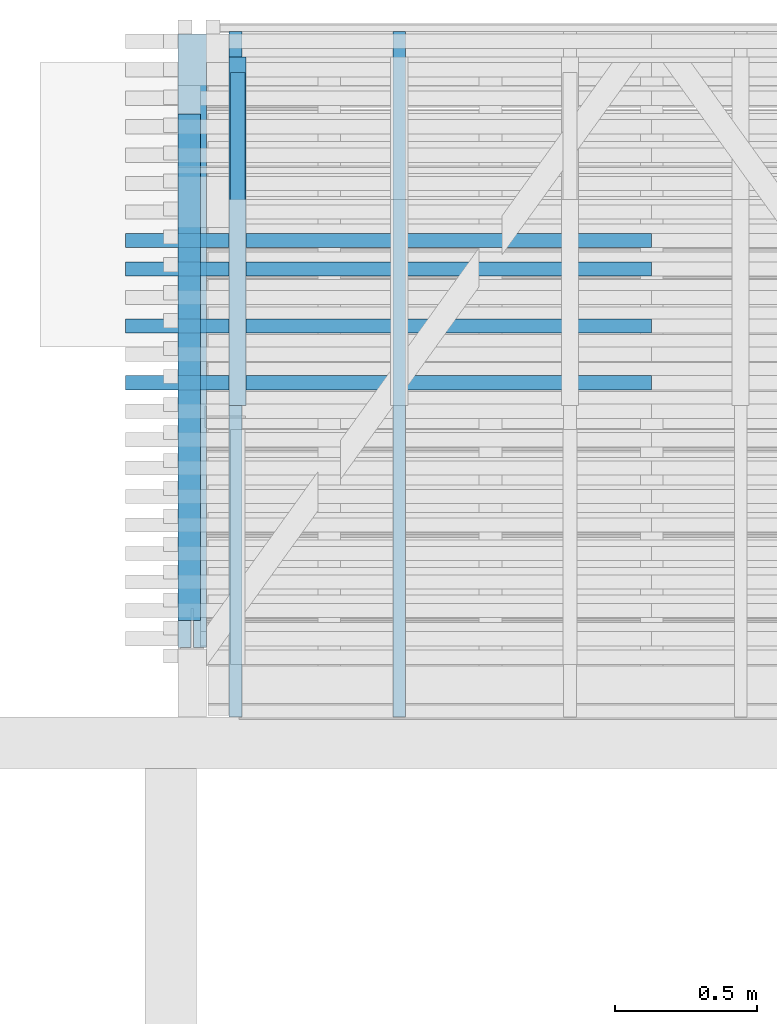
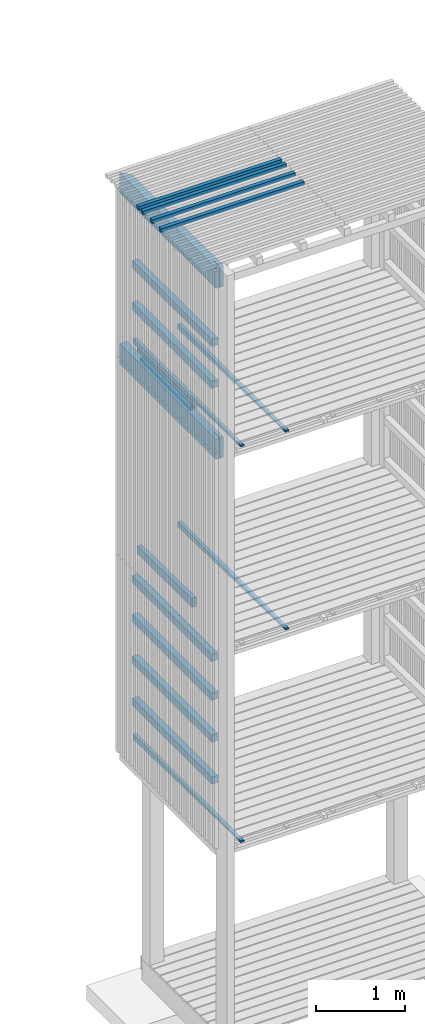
# One storey, part 143 of 182: 19 beams.
"""IFC2X3 building model written with IfcOpenShell, lengths in metres."""

from ifc_helpers import new_model, si_unit, frame, origin, place, context, project, spatial, faceted_brep, element, save


model = new_model("IFC2X3")

# Units and contexts
model_context = context("Model", 3, precision=1e-06, world=origin())
ifc_project = project(units=[si_unit("LENGTHUNIT", "METRE"), si_unit("PLANEANGLEUNIT", "RADIAN")], contexts=[model_context])

# Site, building, storey
site = spatial("IfcSite", under=ifc_project, CompositionType="ELEMENT")
building = spatial("IfcBuilding", under=site, CompositionType="ELEMENT")
storey = spatial("IfcBuildingStorey", under=building, Name="vs", CompositionType="ELEMENT", Elevation=-0.85)

# Beams
placement = place(None, origin())
beam_1_placement = place(placement, frame((33.26499999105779, 12.735077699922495, 7.91739999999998), z_axis=(0.0, 0.0, 1.0), x_axis=(0.0, -1.0, 0.0)))
element("IfcBeam", 1, at=beam_1_placement, inside=storey, Name="Calage", context=model_context, shape_type="Brep", body=[
    faceted_brep([(2e-15, 0.025000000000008, -0.025), (2e-15, -0.024999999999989, -0.025), (2e-15, -0.024999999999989, 0.024999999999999), (2e-15, 0.025000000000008, 0.024999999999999), (1.115000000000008, -0.024999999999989, 0.024999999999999), (1.115000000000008, -0.024999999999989, -0.025), (1.115000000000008, 0.025000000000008, -0.025), (1.115000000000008, 0.025000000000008, 0.024999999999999), (2e-15, -0.024999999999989, 0.024999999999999), (2e-15, -0.024999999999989, -0.025), (1.115000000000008, -0.024999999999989, -0.025), (1.115000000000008, -0.024999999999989, 0.024999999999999), (1.115000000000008, -0.024999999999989, -0.025), (2e-15, -0.024999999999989, -0.025), (2e-15, 0.025000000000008, -0.025), (1.115000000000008, 0.025000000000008, -0.025), (1.115000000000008, 0.025000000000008, -0.025), (2e-15, 0.025000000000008, -0.025), (2e-15, 0.025000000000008, 0.024999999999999), (1.115000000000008, 0.025000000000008, 0.024999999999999), (1.115000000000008, 0.025000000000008, 0.024999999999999), (2e-15, 0.025000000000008, 0.024999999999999), (2e-15, -0.024999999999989, 0.024999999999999), (1.115000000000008, -0.024999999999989, 0.024999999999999)], [[[0, 1, 2, 3]], [[4, 5, 6, 7]], [[8, 9, 10, 11]], [[12, 13, 14, 15]], [[16, 17, 18, 19]], [[20, 21, 22, 23]]]),
])
beam_2_placement = place(placement, frame((34.719999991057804, 11.845077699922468, 10.47999999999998), z_axis=(0.0, 0.0, 1.0), x_axis=(-1.0, -2e-15, 0.0)))
element("IfcBeam", 2, at=beam_2_placement, inside=storey, Name="Bardage", context=model_context, shape_type="Brep", body=[
    faceted_brep([(1.850000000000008, -0.025000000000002, -0.024999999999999), (1.850000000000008, -0.025000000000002, 0.025000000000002), (-1e-15, -0.024999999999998, 0.025000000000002), (-1e-15, -0.024999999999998, -0.024999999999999), (1.850000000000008, -0.025000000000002, 0.025000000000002), (1.850000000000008, -0.025000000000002, -0.024999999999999), (1.850000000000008, 0.024999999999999, -0.024999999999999), (1.850000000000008, 0.024999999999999, 0.025000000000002), (1.850000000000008, 0.024999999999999, -0.024999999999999), (1.850000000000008, -0.025000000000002, -0.024999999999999), (-1e-15, -0.024999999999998, -0.024999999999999), (-1e-15, 0.025000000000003, -0.024999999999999), (1.850000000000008, 0.024999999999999, 0.025000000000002), (1.850000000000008, 0.024999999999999, -0.024999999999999), (-1e-15, 0.025000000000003, -0.024999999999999), (-1e-15, 0.025000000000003, 0.025000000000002), (-1e-15, -0.024999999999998, 0.025000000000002), (1.850000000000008, -0.025000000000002, 0.025000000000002), (1.850000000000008, 0.024999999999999, 0.025000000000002), (-1e-15, 0.025000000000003, 0.025000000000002), (-1e-15, -0.024999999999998, -0.024999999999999), (-1e-15, -0.024999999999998, 0.025000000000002), (-1e-15, 0.025000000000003, 0.025000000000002), (-1e-15, 0.025000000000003, -0.024999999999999)], [[[0, 1, 2, 3]], [[4, 5, 6, 7]], [[8, 9, 10, 11]], [[12, 13, 14, 15]], [[16, 17, 18, 19]], [[20, 21, 22, 23]]]),
])
beam_3_placement = place(placement, frame((33.83299999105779, 10.470077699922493, 8.084400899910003), z_axis=(0.0, 0.0, 1.0), x_axis=(0.0, 1.0, 0.0)))
element("IfcBeam", 3, at=beam_3_placement, inside=storey, Name="Calage", context=model_context, shape_type="Brep", body=[
    faceted_brep([(2.41000000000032, -0.022500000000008, -0.035599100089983), (0.0, -0.022500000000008, 0.012600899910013), (0.0, 0.022499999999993, 0.012600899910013), (2.41000000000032, 0.022499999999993, -0.035599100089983), (0.0, 0.022499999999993, 0.035599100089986), (0.0, 0.022499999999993, 0.012600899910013), (0.0, -0.022500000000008, 0.012600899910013), (0.0, -0.022500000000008, 0.035599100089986), (2.41000000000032, 0.022499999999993, -0.035599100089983), (0.0, 0.022499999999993, 0.012600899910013), (0.0, 0.022499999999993, 0.035599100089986), (2.41000000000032, 0.022499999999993, 0.035599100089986), (2.41000000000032, -0.022500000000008, 0.035599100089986), (0.0, -0.022500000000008, 0.035599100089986), (0.0, -0.022500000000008, 0.012600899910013), (2.41000000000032, -0.022500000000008, -0.035599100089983), (2.41000000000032, 0.022499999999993, 0.035599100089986), (0.0, 0.022499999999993, 0.035599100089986), (0.0, -0.022500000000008, 0.035599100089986), (2.41000000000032, -0.022500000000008, 0.035599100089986), (2.41000000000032, 0.022499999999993, -0.035599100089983), (2.41000000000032, 0.022499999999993, 0.035599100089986), (2.41000000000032, -0.022500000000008, 0.035599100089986), (2.41000000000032, -0.022500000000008, -0.035599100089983)], [[[0, 1, 2, 3]], [[4, 5, 6, 7]], [[8, 9, 10, 11]], [[12, 13, 14, 15]], [[16, 17, 18, 19]], [[20, 21, 22, 23]]]),
])
beam_4_placement = place(placement, frame((34.719999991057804, 12.045077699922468, 10.47999999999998), z_axis=(0.0, 0.0, 1.0), x_axis=(-1.0, -2e-15, 0.0)))
element("IfcBeam", 4, at=beam_4_placement, inside=storey, Name="Bardage", context=model_context, shape_type="Brep", body=[
    faceted_brep([(1.850000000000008, -0.025000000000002, -0.024999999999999), (1.850000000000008, -0.025000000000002, 0.025000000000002), (-1e-15, -0.025000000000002, 0.025000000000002), (-1e-15, -0.025000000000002, -0.024999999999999), (1.850000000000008, -0.025000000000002, 0.025000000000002), (1.850000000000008, -0.025000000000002, -0.024999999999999), (1.850000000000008, 0.024999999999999, -0.024999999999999), (1.850000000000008, 0.024999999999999, 0.025000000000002), (1.850000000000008, 0.024999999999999, -0.024999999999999), (1.850000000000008, -0.025000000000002, -0.024999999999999), (-1e-15, -0.025000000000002, -0.024999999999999), (-1e-15, 0.025000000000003, -0.024999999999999), (1.850000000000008, 0.024999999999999, 0.025000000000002), (1.850000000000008, 0.024999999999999, -0.024999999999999), (-1e-15, 0.025000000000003, -0.024999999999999), (-1e-15, 0.025000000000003, 0.025000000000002), (-1e-15, -0.025000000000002, 0.025000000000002), (1.850000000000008, -0.025000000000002, 0.025000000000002), (1.850000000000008, 0.024999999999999, 0.025000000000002), (-1e-15, 0.025000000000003, 0.025000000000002), (-1e-15, -0.025000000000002, -0.024999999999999), (-1e-15, -0.025000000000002, 0.025000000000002), (-1e-15, 0.025000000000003, 0.025000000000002), (-1e-15, 0.025000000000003, -0.024999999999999)], [[[0, 1, 2, 3]], [[4, 5, 6, 7]], [[8, 9, 10, 11]], [[12, 13, 14, 15]], [[16, 17, 18, 19]], [[20, 21, 22, 23]]]),
])
beam_5_placement = place(placement, frame((33.26499999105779, 11.565077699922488, 8.00424999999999), z_axis=(0.0, 0.0, 1.0), x_axis=(0.0, 1.0, 0.0)))
element("IfcBeam", 5, at=beam_5_placement, inside=storey, Name="Solive", context=model_context, shape_type="Brep", body=[
    faceted_brep([(0.0, -0.030000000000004, -0.061849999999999), (1.225000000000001, -0.030000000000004, -0.061849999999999), (1.225000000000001, -0.030000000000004, 0.037349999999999), (0.0, -0.030000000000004, 0.061849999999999), (0.0, 0.029999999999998, -0.061849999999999), (1.225000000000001, 0.029999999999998, -0.061849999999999), (1.225000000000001, -0.030000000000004, -0.061849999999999), (0.0, -0.030000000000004, -0.061849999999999), (0.0, 0.029999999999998, 0.061850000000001), (0.0, 0.029999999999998, -0.061849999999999), (0.0, -0.030000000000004, -0.061849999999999), (0.0, -0.030000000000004, 0.061849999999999), (1.225000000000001, 0.029999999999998, -0.061849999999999), (0.0, 0.029999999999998, -0.061849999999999), (0.0, 0.029999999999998, 0.061850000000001), (1.225000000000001, 0.029999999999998, 0.037349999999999), (1.225000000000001, -0.030000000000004, 0.037349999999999), (1.225000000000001, -0.030000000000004, -0.061849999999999), (1.225000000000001, 0.029999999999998, -0.061849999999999), (1.225000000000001, 0.029999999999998, 0.037349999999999), (0.0, -0.030000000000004, 0.061849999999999), (1.225000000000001, -0.030000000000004, 0.037349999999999), (1.225000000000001, 0.029999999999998, 0.037349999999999), (0.0, 0.029999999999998, 0.061850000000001)], [[[0, 1, 2, 3]], [[4, 5, 6, 7]], [[8, 9, 10, 11]], [[12, 13, 14, 15]], [[16, 17, 18, 19]], [[20, 21, 22, 23]]]),
])
beam_6_placement = place(placement, frame((34.719999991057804, 11.645077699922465, 10.47999999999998), z_axis=(0.0, 0.0, 1.0), x_axis=(-1.0, 0.0, 0.0)))
element("IfcBeam", 6, at=beam_6_placement, inside=storey, Name="Bardage", context=model_context, shape_type="Brep", body=[
    faceted_brep([(1.850000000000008, -0.024999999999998, -0.024999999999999), (1.850000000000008, -0.024999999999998, 0.025000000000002), (-1e-15, -0.025000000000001, 0.025000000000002), (-1e-15, -0.025000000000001, -0.024999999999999), (1.850000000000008, -0.024999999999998, 0.025000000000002), (1.850000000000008, -0.024999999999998, -0.024999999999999), (1.850000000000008, 0.024999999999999, -0.024999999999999), (1.850000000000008, 0.024999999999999, 0.025000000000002), (1.850000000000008, 0.024999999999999, -0.024999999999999), (1.850000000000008, -0.024999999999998, -0.024999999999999), (-1e-15, -0.025000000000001, -0.024999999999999), (-1e-15, 0.024999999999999, -0.024999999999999), (1.850000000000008, 0.024999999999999, 0.025000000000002), (1.850000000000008, 0.024999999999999, -0.024999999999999), (-1e-15, 0.024999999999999, -0.024999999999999), (-1e-15, 0.024999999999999, 0.025000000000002), (-1e-15, -0.025000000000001, 0.025000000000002), (1.850000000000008, -0.024999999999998, 0.025000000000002), (1.850000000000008, 0.024999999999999, 0.025000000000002), (-1e-15, 0.024999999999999, 0.025000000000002), (-1e-15, -0.025000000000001, -0.024999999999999), (-1e-15, -0.025000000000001, 0.025000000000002), (-1e-15, 0.024999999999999, 0.025000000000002), (-1e-15, 0.024999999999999, -0.024999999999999)], [[[0, 1, 2, 3]], [[4, 5, 6, 7]], [[8, 9, 10, 11]], [[12, 13, 14, 15]], [[16, 17, 18, 19]], [[20, 21, 22, 23]]]),
])
beam_7_placement = place(placement, frame((33.2574999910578, 10.470077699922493, 8.084400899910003), z_axis=(0.0, 0.0, 1.0), x_axis=(0.0, 1.0, 0.0)))
element("IfcBeam", 7, at=beam_7_placement, inside=storey, Name="Calage", context=model_context, shape_type="Brep", body=[
    faceted_brep([(2.41000000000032, -0.022499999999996, -0.035599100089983), (0.0, -0.022499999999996, 0.012600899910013), (0.0, 0.022500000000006, 0.012600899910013), (2.41000000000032, 0.022500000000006, -0.035599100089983), (0.0, 0.022500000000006, 0.035599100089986), (0.0, 0.022500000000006, 0.012600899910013), (0.0, -0.022499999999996, 0.012600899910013), (0.0, -0.022499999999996, 0.035599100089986), (2.41000000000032, 0.022500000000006, -0.035599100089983), (0.0, 0.022500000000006, 0.012600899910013), (0.0, 0.022500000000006, 0.035599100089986), (2.41000000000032, 0.022500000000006, 0.035599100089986), (2.41000000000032, -0.022499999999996, 0.035599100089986), (0.0, -0.022499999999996, 0.035599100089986), (0.0, -0.022499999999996, 0.012600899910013), (2.41000000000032, -0.022499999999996, -0.035599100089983), (2.41000000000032, 0.022500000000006, 0.035599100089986), (0.0, 0.022500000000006, 0.035599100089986), (0.0, -0.022499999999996, 0.035599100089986), (2.41000000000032, -0.022499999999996, 0.035599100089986), (2.41000000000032, 0.022500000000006, -0.035599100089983), (2.41000000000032, 0.022500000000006, 0.035599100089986), (2.41000000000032, -0.022499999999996, 0.035599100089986), (2.41000000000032, -0.022499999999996, -0.035599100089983)], [[[0, 1, 2, 3]], [[4, 5, 6, 7]], [[8, 9, 10, 11]], [[12, 13, 14, 15]], [[16, 17, 18, 19]], [[20, 21, 22, 23]]]),
])
beam_8_placement = place(placement, frame((33.09499999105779, 10.8100776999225, 4.543749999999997), z_axis=(0.0, 0.0, 1.0), x_axis=(0.0, 1.0, 0.0)))
element("IfcBeam", 8, at=beam_8_placement, inside=storey, Name="Support bardage", context=model_context, shape_type="Brep", body=[
    faceted_brep([(1.779999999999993, 0.039999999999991, -0.050000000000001), (1.779999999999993, 0.039999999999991, 0.050000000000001), (1.779999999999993, -0.040000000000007, 0.050000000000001), (1.779999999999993, -0.040000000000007, -0.050000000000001), (1.779999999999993, -0.040000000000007, 0.050000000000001), (1.779999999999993, 0.039999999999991, 0.050000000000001), (-4e-15, 0.039999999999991, 0.050000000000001), (-4e-15, -0.040000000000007, 0.050000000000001), (-4e-15, 0.039999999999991, 0.050000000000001), (1.779999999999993, 0.039999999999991, 0.050000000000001), (1.779999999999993, 0.039999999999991, -0.050000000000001), (-4e-15, 0.039999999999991, -0.050000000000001), (1.779999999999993, -0.040000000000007, -0.050000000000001), (1.779999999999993, -0.040000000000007, 0.050000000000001), (-4e-15, -0.040000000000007, 0.050000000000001), (-4e-15, -0.040000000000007, -0.050000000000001), (-4e-15, 0.039999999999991, -0.050000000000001), (1.779999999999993, 0.039999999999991, -0.050000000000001), (1.779999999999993, -0.040000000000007, -0.050000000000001), (-4e-15, -0.040000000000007, -0.050000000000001), (-4e-15, 0.039999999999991, 0.050000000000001), (-4e-15, 0.039999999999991, -0.050000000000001), (-4e-15, -0.040000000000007, -0.050000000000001), (-4e-15, -0.040000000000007, 0.050000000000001)], [[[0, 1, 2, 3]], [[4, 5, 6, 7]], [[8, 9, 10, 11]], [[12, 13, 14, 15]], [[16, 17, 18, 19]], [[20, 21, 22, 23]]]),
])
beam_9_placement = place(placement, frame((34.719999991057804, 12.145077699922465, 10.47999999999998), z_axis=(0.0, 0.0, 1.0), x_axis=(-1.0, 0.0, 0.0)))
element("IfcBeam", 9, at=beam_9_placement, inside=storey, Name="Bardage", context=model_context, shape_type="Brep", body=[
    faceted_brep([(1.850000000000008, -0.024999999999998, -0.024999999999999), (1.850000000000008, -0.024999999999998, 0.025000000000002), (-1e-15, -0.025000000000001, 0.025000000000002), (-1e-15, -0.025000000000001, -0.024999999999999), (1.850000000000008, -0.024999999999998, 0.025000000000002), (1.850000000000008, -0.024999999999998, -0.024999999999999), (1.850000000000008, 0.024999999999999, -0.024999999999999), (1.850000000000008, 0.024999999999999, 0.025000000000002), (1.850000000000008, 0.024999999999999, -0.024999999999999), (1.850000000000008, -0.024999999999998, -0.024999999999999), (-1e-15, -0.025000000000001, -0.024999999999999), (-1e-15, 0.024999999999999, -0.024999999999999), (1.850000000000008, 0.024999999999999, 0.025000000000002), (1.850000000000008, 0.024999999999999, -0.024999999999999), (-1e-15, 0.024999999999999, -0.024999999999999), (-1e-15, 0.024999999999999, 0.025000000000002), (-1e-15, -0.025000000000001, 0.025000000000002), (1.850000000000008, -0.024999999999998, 0.025000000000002), (1.850000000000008, 0.024999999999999, 0.025000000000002), (-1e-15, 0.024999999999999, 0.025000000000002), (-1e-15, -0.025000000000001, -0.024999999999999), (-1e-15, -0.025000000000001, 0.025000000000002), (-1e-15, 0.024999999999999, 0.025000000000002), (-1e-15, 0.024999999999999, -0.024999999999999)], [[[0, 1, 2, 3]], [[4, 5, 6, 7]], [[8, 9, 10, 11]], [[12, 13, 14, 15]], [[16, 17, 18, 19]], [[20, 21, 22, 23]]]),
])
beam_10_placement = place(placement, frame((33.09499999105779, 10.8100776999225, 8.80124999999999), z_axis=(0.0, 0.0, 1.0), x_axis=(0.0, 1.0, 0.0)))
element("IfcBeam", 10, at=beam_10_placement, inside=storey, Name="Support bardage", context=model_context, shape_type="Brep", body=[
    faceted_brep([(1.779999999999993, 0.039999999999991, -0.050000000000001), (1.779999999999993, 0.039999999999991, 0.050000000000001), (1.779999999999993, -0.040000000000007, 0.050000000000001), (1.779999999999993, -0.040000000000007, -0.050000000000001), (1.779999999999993, -0.040000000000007, 0.050000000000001), (1.779999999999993, 0.039999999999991, 0.050000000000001), (-4e-15, 0.039999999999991, 0.050000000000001), (-4e-15, -0.040000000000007, 0.050000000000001), (-4e-15, 0.039999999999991, 0.050000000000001), (1.779999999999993, 0.039999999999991, 0.050000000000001), (1.779999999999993, 0.039999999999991, -0.050000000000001), (-4e-15, 0.039999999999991, -0.050000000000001), (1.779999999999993, -0.040000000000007, -0.050000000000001), (1.779999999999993, -0.040000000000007, 0.050000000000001), (-4e-15, -0.040000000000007, 0.050000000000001), (-4e-15, -0.040000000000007, -0.050000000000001), (-4e-15, 0.039999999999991, -0.050000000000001), (1.779999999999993, 0.039999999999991, -0.050000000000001), (1.779999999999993, -0.040000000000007, -0.050000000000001), (-4e-15, -0.040000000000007, -0.050000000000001), (-4e-15, 0.039999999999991, 0.050000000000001), (-4e-15, 0.039999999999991, -0.050000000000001), (-4e-15, -0.040000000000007, -0.050000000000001), (-4e-15, -0.040000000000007, 0.050000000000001)], [[[0, 1, 2, 3]], [[4, 5, 6, 7]], [[8, 9, 10, 11]], [[12, 13, 14, 15]], [[16, 17, 18, 19]], [[20, 21, 22, 23]]]),
])
beam_11_placement = place(placement, frame((33.2574999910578, 10.470077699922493, 2.684400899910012), z_axis=(0.0, 0.0, 1.0), x_axis=(0.0, 1.0, 0.0)))
element("IfcBeam", 11, at=beam_11_placement, inside=storey, Name="Calage", context=model_context, shape_type="Brep", body=[
    faceted_brep([(2.41000000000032, -0.022499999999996, -0.035599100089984), (0.0, -0.022499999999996, 0.012600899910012), (0.0, 0.022500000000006, 0.012600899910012), (2.41000000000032, 0.022500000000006, -0.035599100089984), (0.0, 0.022500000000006, 0.035599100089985), (0.0, 0.022500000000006, 0.012600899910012), (0.0, -0.022499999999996, 0.012600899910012), (0.0, -0.022499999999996, 0.035599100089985), (2.41000000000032, 0.022500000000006, -0.035599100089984), (0.0, 0.022500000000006, 0.012600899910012), (0.0, 0.022500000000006, 0.035599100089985), (2.41000000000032, 0.022500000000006, 0.035599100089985), (2.41000000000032, -0.022499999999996, 0.035599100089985), (0.0, -0.022499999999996, 0.035599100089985), (0.0, -0.022499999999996, 0.012600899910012), (2.41000000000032, -0.022499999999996, -0.035599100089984), (2.41000000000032, 0.022500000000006, 0.035599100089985), (0.0, 0.022500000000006, 0.035599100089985), (0.0, -0.022499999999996, 0.035599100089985), (2.41000000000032, -0.022499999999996, 0.035599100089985), (2.41000000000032, 0.022500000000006, -0.035599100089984), (2.41000000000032, 0.022500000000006, 0.035599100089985), (2.41000000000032, -0.022499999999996, 0.035599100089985), (2.41000000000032, -0.022499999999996, -0.035599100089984)], [[[0, 1, 2, 3]], [[4, 5, 6, 7]], [[8, 9, 10, 11]], [[12, 13, 14, 15]], [[16, 17, 18, 19]], [[20, 21, 22, 23]]]),
])
beam_12_placement = place(placement, frame((33.83299999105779, 10.470077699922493, 5.384400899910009), z_axis=(0.0, 0.0, 1.0), x_axis=(0.0, 1.0, 0.0)))
element("IfcBeam", 12, at=beam_12_placement, inside=storey, Name="Calage", context=model_context, shape_type="Brep", body=[
    faceted_brep([(2.41000000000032, -0.022500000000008, -0.035599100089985), (0.0, -0.022500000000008, 0.012600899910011), (0.0, 0.022499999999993, 0.012600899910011), (2.41000000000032, 0.022499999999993, -0.035599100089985), (0.0, 0.022499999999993, 0.035599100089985), (0.0, 0.022499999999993, 0.012600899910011), (0.0, -0.022500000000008, 0.012600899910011), (0.0, -0.022500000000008, 0.035599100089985), (2.41000000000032, 0.022499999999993, -0.035599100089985), (0.0, 0.022499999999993, 0.012600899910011), (0.0, 0.022499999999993, 0.035599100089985), (2.41000000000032, 0.022499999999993, 0.035599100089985), (2.41000000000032, -0.022500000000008, 0.035599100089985), (0.0, -0.022500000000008, 0.035599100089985), (0.0, -0.022500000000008, 0.012600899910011), (2.41000000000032, -0.022500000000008, -0.035599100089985), (2.41000000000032, 0.022499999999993, 0.035599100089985), (0.0, 0.022499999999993, 0.035599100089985), (0.0, -0.022500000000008, 0.035599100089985), (2.41000000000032, -0.022500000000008, 0.035599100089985), (2.41000000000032, 0.022499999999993, -0.035599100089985), (2.41000000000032, 0.022499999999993, 0.035599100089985), (2.41000000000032, -0.022500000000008, 0.035599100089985), (2.41000000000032, -0.022500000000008, -0.035599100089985)], [[[0, 1, 2, 3]], [[4, 5, 6, 7]], [[8, 9, 10, 11]], [[12, 13, 14, 15]], [[16, 17, 18, 19]], [[20, 21, 22, 23]]]),
])
beam_13_placement = place(placement, frame((33.26499999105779, 11.565077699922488, 5.304249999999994), z_axis=(0.0, 0.0, 1.0), x_axis=(0.0, 1.0, 0.0)))
element("IfcBeam", 13, at=beam_13_placement, inside=storey, Name="Solive", context=model_context, shape_type="Brep", body=[
    faceted_brep([(0.0, -0.030000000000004, -0.061849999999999), (1.225000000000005, -0.030000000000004, -0.061849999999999), (1.225000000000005, -0.030000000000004, 0.03735), (0.0, -0.030000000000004, 0.06185), (0.0, 0.029999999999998, -0.061849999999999), (1.225000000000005, 0.029999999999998, -0.061849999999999), (1.225000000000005, -0.030000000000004, -0.061849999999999), (0.0, -0.030000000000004, -0.061849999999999), (0.0, 0.029999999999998, 0.061850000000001), (0.0, 0.029999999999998, -0.061849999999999), (0.0, -0.030000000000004, -0.061849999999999), (0.0, -0.030000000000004, 0.06185), (1.225000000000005, 0.029999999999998, -0.061849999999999), (0.0, 0.029999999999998, -0.061849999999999), (0.0, 0.029999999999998, 0.061850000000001), (1.225000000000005, 0.029999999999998, 0.03735), (1.225000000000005, -0.030000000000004, 0.03735), (1.225000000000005, -0.030000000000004, -0.061849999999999), (1.225000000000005, 0.029999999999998, -0.061849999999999), (1.225000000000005, 0.029999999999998, 0.03735), (0.0, -0.030000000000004, 0.06185), (1.225000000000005, -0.030000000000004, 0.03735), (1.225000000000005, 0.029999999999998, 0.03735), (0.0, 0.029999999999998, 0.061850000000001)], [[[0, 1, 2, 3]], [[4, 5, 6, 7]], [[8, 9, 10, 11]], [[12, 13, 14, 15]], [[16, 17, 18, 19]], [[20, 21, 22, 23]]]),
])
beam_14_placement = place(placement, frame((33.104999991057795, 10.715077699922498, 10.314999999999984), z_axis=(0.0, 0.0, 1.0), x_axis=(0.0, 1.0, 0.0)))
element("IfcBeam", 14, at=beam_14_placement, inside=storey, Name="Sommier", context=model_context, shape_type="Brep", body=[
    faceted_brep([(0.0, -0.004000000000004, 0.140000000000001), (0.0, -0.049999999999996, 0.140000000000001), (2.054999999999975, -0.049999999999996, 0.140000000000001), (2.154999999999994, 0.049999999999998, 0.140000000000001), (0.0, 0.049999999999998, 0.140000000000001), (0.0, 0.003999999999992, 0.140000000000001), (0.137, 0.003999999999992, 0.140000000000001), (0.137, -0.004000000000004, 0.140000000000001), (2.054999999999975, -0.049999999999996, -0.140000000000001), (2.054999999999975, -0.049999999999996, 0.140000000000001), (0.0, -0.049999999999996, 0.140000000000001), (0.0, -0.049999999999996, -0.140000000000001), (2.054999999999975, -0.049999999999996, 0.140000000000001), (2.054999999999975, -0.049999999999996, -0.140000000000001), (2.154999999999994, 0.049999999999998, -0.140000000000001), (2.154999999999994, 0.049999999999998, 0.140000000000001), (0.0, 0.049999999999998, 0.140000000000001), (2.154999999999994, 0.049999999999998, 0.140000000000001), (2.154999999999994, 0.049999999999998, -0.140000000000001), (0.0, 0.049999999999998, -0.140000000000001), (0.0, 0.003999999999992, -0.140000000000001), (0.0, 0.003999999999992, 0.140000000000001), (0.0, 0.049999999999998, 0.140000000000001), (0.0, 0.049999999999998, -0.140000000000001), (0.0, -0.049999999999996, 0.140000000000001), (0.0, -0.004000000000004, 0.140000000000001), (0.0, -0.004000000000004, -0.140000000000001), (0.0, -0.049999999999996, -0.140000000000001), (0.0, 0.049999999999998, -0.140000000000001), (2.154999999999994, 0.049999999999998, -0.140000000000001), (2.054999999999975, -0.049999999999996, -0.140000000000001), (0.0, -0.049999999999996, -0.140000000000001), (0.0, -0.004000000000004, -0.140000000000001), (0.137, -0.004000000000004, -0.140000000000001), (0.137, 0.003999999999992, -0.140000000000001), (0.0, 0.003999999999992, -0.140000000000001), (0.137, 0.003999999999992, -0.140000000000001), (0.137, -0.004000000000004, -0.140000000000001), (0.137, -0.004000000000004, 0.140000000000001), (0.137, 0.003999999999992, 0.140000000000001), (0.0, -0.004000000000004, 0.140000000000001), (0.137, -0.004000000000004, 0.140000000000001), (0.137, -0.004000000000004, -0.140000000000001), (0.0, -0.004000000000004, -0.140000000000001), (0.137, 0.003999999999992, 0.140000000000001), (0.0, 0.003999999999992, 0.140000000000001), (0.0, 0.003999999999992, -0.140000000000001), (0.137, 0.003999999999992, -0.140000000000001)], [[[0, 1, 2, 3, 4, 5, 6, 7]], [[8, 9, 10, 11]], [[12, 13, 14, 15]], [[16, 17, 18, 19]], [[20, 21, 22, 23]], [[24, 25, 26, 27]], [[28, 29, 30, 31, 32, 33, 34, 35]], [[36, 37, 38, 39]], [[40, 41, 42, 43]], [[44, 45, 46, 47]]]),
])
beam_15_placement = place(placement, frame((33.09499999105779, 10.8100776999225, 3.972499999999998), z_axis=(0.0, 0.0, 1.0), x_axis=(0.0, 1.0, 0.0)))
element("IfcBeam", 15, at=beam_15_placement, inside=storey, Name="Support bardage", context=model_context, shape_type="Brep", body=[
    faceted_brep([(1.779999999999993, 0.039999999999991, -0.050000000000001), (1.779999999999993, 0.039999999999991, 0.050000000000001), (1.779999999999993, -0.040000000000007, 0.050000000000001), (1.779999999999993, -0.040000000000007, -0.050000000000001), (1.779999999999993, -0.040000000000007, 0.050000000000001), (1.779999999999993, 0.039999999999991, 0.050000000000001), (-4e-15, 0.039999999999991, 0.050000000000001), (-4e-15, -0.040000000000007, 0.050000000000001), (-4e-15, 0.039999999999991, 0.050000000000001), (1.779999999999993, 0.039999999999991, 0.050000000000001), (1.779999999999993, 0.039999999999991, -0.050000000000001), (-4e-15, 0.039999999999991, -0.050000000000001), (1.779999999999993, -0.040000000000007, -0.050000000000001), (1.779999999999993, -0.040000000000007, 0.050000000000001), (-4e-15, -0.040000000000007, 0.050000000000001), (-4e-15, -0.040000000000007, -0.050000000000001), (-4e-15, 0.039999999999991, -0.050000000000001), (1.779999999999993, 0.039999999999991, -0.050000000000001), (1.779999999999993, -0.040000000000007, -0.050000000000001), (-4e-15, -0.040000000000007, -0.050000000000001), (-4e-15, 0.039999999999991, 0.050000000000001), (-4e-15, 0.039999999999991, -0.050000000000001), (-4e-15, -0.040000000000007, -0.050000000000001), (-4e-15, -0.040000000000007, 0.050000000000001)], [[[0, 1, 2, 3]], [[4, 5, 6, 7]], [[8, 9, 10, 11]], [[12, 13, 14, 15]], [[16, 17, 18, 19]], [[20, 21, 22, 23]]]),
])
beam_16_placement = place(placement, frame((33.104999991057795, 10.715077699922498, 7.979999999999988), z_axis=(0.0, 0.0, 1.0), x_axis=(0.0, 1.0, 0.0)))
element("IfcBeam", 16, at=beam_16_placement, inside=storey, Name="Sommier", context=model_context, shape_type="Brep", body=[
    faceted_brep([(2.154999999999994, 0.049999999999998, 0.140000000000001), (2.154999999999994, -0.049999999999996, 0.140000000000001), (2.154999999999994, -0.049999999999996, -0.14), (2.154999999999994, 0.049999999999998, -0.14), (0.771999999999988, -0.049999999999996, -0.14), (0.771999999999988, -0.049999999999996, 0.035000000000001), (0.847999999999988, -0.049999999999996, 0.035000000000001), (0.847999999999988, -0.049999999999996, -0.14), (2.154999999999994, -0.049999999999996, -0.14), (2.154999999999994, -0.049999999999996, 0.140000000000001), (0.0, -0.049999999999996, 0.140000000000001), (0.0, -0.049999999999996, -0.14), (0.771999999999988, -0.045000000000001, -0.14), (0.847999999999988, -0.045000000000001, -0.14), (0.847999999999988, -0.045000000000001, 0.035000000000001), (0.771999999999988, -0.045000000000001, 0.035000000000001), (0.771999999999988, -0.045000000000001, 0.035000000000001), (0.847999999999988, -0.045000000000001, 0.035000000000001), (0.847999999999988, -0.049999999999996, 0.035000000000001), (0.771999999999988, -0.049999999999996, 0.035000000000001), (0.847999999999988, -0.045000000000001, 0.035000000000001), (0.847999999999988, -0.045000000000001, -0.14), (0.847999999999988, -0.049999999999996, -0.14), (0.847999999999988, -0.049999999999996, 0.035000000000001), (0.771999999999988, -0.049999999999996, 0.035000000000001), (0.771999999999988, -0.049999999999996, -0.14), (0.771999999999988, -0.045000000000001, -0.14), (0.771999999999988, -0.045000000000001, 0.035000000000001), (2.154999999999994, 0.049999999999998, 0.140000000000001), (2.154999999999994, 0.049999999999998, -0.14), (0.0, 0.049999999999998, -0.14), (0.0, 0.049999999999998, 0.140000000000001), (0.0, -0.00399999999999, 0.140000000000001), (0.0, -0.049999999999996, 0.140000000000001), (2.154999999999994, -0.049999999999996, 0.140000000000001), (2.154999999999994, 0.049999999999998, 0.140000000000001), (0.0, 0.049999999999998, 0.140000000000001), (0.0, 0.004000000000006, 0.140000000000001), (0.137, 0.004000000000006, 0.140000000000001), (0.137, -0.00399999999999, 0.140000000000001), (0.0, 0.004000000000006, -0.14), (0.0, 0.004000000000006, 0.140000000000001), (0.0, 0.049999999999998, 0.140000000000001), (0.0, 0.049999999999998, -0.14), (0.0, -0.049999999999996, 0.140000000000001), (0.0, -0.00399999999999, 0.140000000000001), (0.0, -0.00399999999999, -0.14), (0.0, -0.049999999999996, -0.14), (0.0, 0.049999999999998, -0.14), (2.154999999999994, 0.049999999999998, -0.14), (2.154999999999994, -0.049999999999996, -0.14), (0.847999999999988, -0.049999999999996, -0.14), (0.847999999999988, -0.045000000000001, -0.14), (0.771999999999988, -0.045000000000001, -0.14), (0.771999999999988, -0.049999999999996, -0.14), (0.0, -0.049999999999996, -0.14), (0.0, -0.00399999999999, -0.14), (0.137, -0.00399999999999, -0.14), (0.137, 0.004000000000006, -0.14), (0.0, 0.004000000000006, -0.14), (0.137, 0.004000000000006, -0.14), (0.137, -0.00399999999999, -0.14), (0.137, -0.00399999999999, 0.140000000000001), (0.137, 0.004000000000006, 0.140000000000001), (0.0, -0.00399999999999, 0.140000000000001), (0.137, -0.00399999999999, 0.140000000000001), (0.137, -0.00399999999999, -0.14), (0.0, -0.00399999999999, -0.14), (0.137, 0.004000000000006, 0.140000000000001), (0.0, 0.004000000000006, 0.140000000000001), (0.0, 0.004000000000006, -0.14), (0.137, 0.004000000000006, -0.14)], [[[0, 1, 2, 3]], [[4, 5, 6, 7, 8, 9, 10, 11]], [[12, 13, 14, 15]], [[16, 17, 18, 19]], [[20, 21, 22, 23]], [[24, 25, 26, 27]], [[28, 29, 30, 31]], [[32, 33, 34, 35, 36, 37, 38, 39]], [[40, 41, 42, 43]], [[44, 45, 46, 47]], [[48, 49, 50, 51, 52, 53, 54, 55, 56, 57, 58, 59]], [[60, 61, 62, 63]], [[64, 65, 66, 67]], [[68, 69, 70, 71]]]),
])
for number, where, z_axis, x_axis, name in (
    (17, (33.09499999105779, 10.8100776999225, 5.074999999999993), (0.0, 0.0, 1.0), (0.0, 1.0, 0.0), "Support bardage"),
    (18, (33.09499999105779, 10.8100776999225, 9.37249999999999), (0.0, 0.0, 1.0), (0.0, 1.0, 0.0), "Support bardage"),
):
    element("IfcBeam", number, at=place(placement, frame(where, z_axis=z_axis, x_axis=x_axis)), inside=storey, Name=name, context=model_context, shape_type="Brep", body=[
        faceted_brep([(1.779999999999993, 0.039999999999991, -0.050000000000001), (1.779999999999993, 0.039999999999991, 0.050000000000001), (1.779999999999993, -0.040000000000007, 0.050000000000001), (1.779999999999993, -0.040000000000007, -0.050000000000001), (1.779999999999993, -0.040000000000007, 0.050000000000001), (1.779999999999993, 0.039999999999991, 0.050000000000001), (-4e-15, 0.039999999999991, 0.050000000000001), (-4e-15, -0.040000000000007, 0.050000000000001), (-4e-15, 0.039999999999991, 0.050000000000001), (1.779999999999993, 0.039999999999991, 0.050000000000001), (1.779999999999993, 0.039999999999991, -0.050000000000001), (-4e-15, 0.039999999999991, -0.050000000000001), (1.779999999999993, -0.040000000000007, -0.050000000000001), (1.779999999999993, -0.040000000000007, 0.050000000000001), (-4e-15, -0.040000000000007, 0.050000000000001), (-4e-15, -0.040000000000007, -0.050000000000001), (-4e-15, 0.039999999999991, -0.050000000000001), (1.779999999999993, 0.039999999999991, -0.050000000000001), (1.779999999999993, -0.040000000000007, -0.050000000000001), (-4e-15, -0.040000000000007, -0.050000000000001), (-4e-15, 0.039999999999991, 0.050000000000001), (-4e-15, 0.039999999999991, -0.050000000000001), (-4e-15, -0.040000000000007, -0.050000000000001), (-4e-15, -0.040000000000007, 0.050000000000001)], [[[0, 1, 2, 3]], [[4, 5, 6, 7]], [[8, 9, 10, 11]], [[12, 13, 14, 15]], [[16, 17, 18, 19]], [[20, 21, 22, 23]]]),
    ])
beam_17_placement = place(placement, frame((33.09499999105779, 10.8100776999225, 3.401250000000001), z_axis=(0.0, 0.0, 1.0), x_axis=(0.0, 1.0, 0.0)))
element("IfcBeam", 19, at=beam_17_placement, inside=storey, Name="Support bardage", context=model_context, shape_type="Brep", body=[
    faceted_brep([(1.779999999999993, 0.039999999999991, -0.050000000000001), (1.779999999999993, 0.039999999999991, 0.05), (1.779999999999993, -0.040000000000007, 0.05), (1.779999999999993, -0.040000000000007, -0.050000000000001), (1.779999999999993, -0.040000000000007, 0.05), (1.779999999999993, 0.039999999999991, 0.05), (-4e-15, 0.039999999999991, 0.05), (-4e-15, -0.040000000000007, 0.05), (-4e-15, 0.039999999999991, 0.05), (1.779999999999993, 0.039999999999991, 0.05), (1.779999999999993, 0.039999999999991, -0.050000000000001), (-4e-15, 0.039999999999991, -0.050000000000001), (1.779999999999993, -0.040000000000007, -0.050000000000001), (1.779999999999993, -0.040000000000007, 0.05), (-4e-15, -0.040000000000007, 0.05), (-4e-15, -0.040000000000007, -0.050000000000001), (-4e-15, 0.039999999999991, -0.050000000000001), (1.779999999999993, 0.039999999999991, -0.050000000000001), (1.779999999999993, -0.040000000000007, -0.050000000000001), (-4e-15, -0.040000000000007, -0.050000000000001), (-4e-15, 0.039999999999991, 0.05), (-4e-15, 0.039999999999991, -0.050000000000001), (-4e-15, -0.040000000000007, -0.050000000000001), (-4e-15, -0.040000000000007, 0.05)], [[[0, 1, 2, 3]], [[4, 5, 6, 7]], [[8, 9, 10, 11]], [[12, 13, 14, 15]], [[16, 17, 18, 19]], [[20, 21, 22, 23]]]),
])

save(model, "model.ifc")
